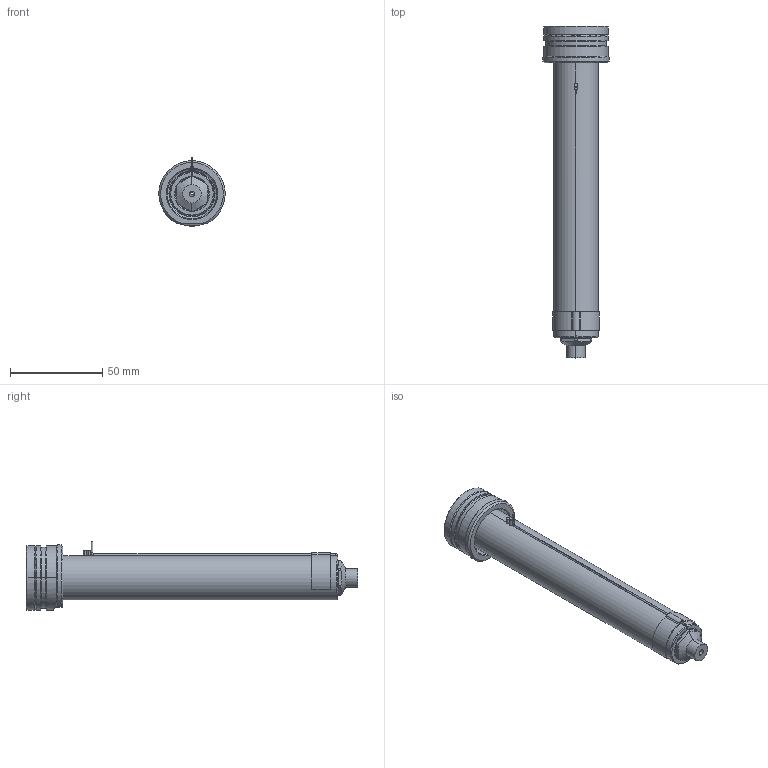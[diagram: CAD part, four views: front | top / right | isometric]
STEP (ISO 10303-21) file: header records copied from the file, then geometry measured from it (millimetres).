
FILE_DESCRIPTION((''),'2;1');
FILE_NAME('EO06_VG-ST_STD_160_SW','2024-02-19T12:39:03',('sundharh'),(''),'CREO PARAMETRIC BY PTC INC, 2023154','CREO PARAMETRIC BY PTC INC, 2023154','');
FILE_SCHEMA(('CONFIG_CONTROL_DESIGN'));
Length unit declared in the file: millimetre
Products named in the file (1): EO06_VG-ST_STD_160_SW
Bounding box: 35.93 x 180 x 37 mm (x, y, z)
Volume: 81503.7 mm3; surface area: 22213.1 mm2
Topology: 2 solids, 2 shells, 175 faces, 448 edges, 272 vertices
Faces by surface type: cylinder 68, plane 40, cone 34, torus 21, bspline 10, sphere 2
Entity records: 6140 total; most frequent: CARTESIAN_POINT 1847, DIRECTION 946, ORIENTED_EDGE 880, EDGE_CURVE 440, AXIS2_PLACEMENT_3D 395, VERTEX_POINT 272, CIRCLE 230, EDGE_LOOP 188
